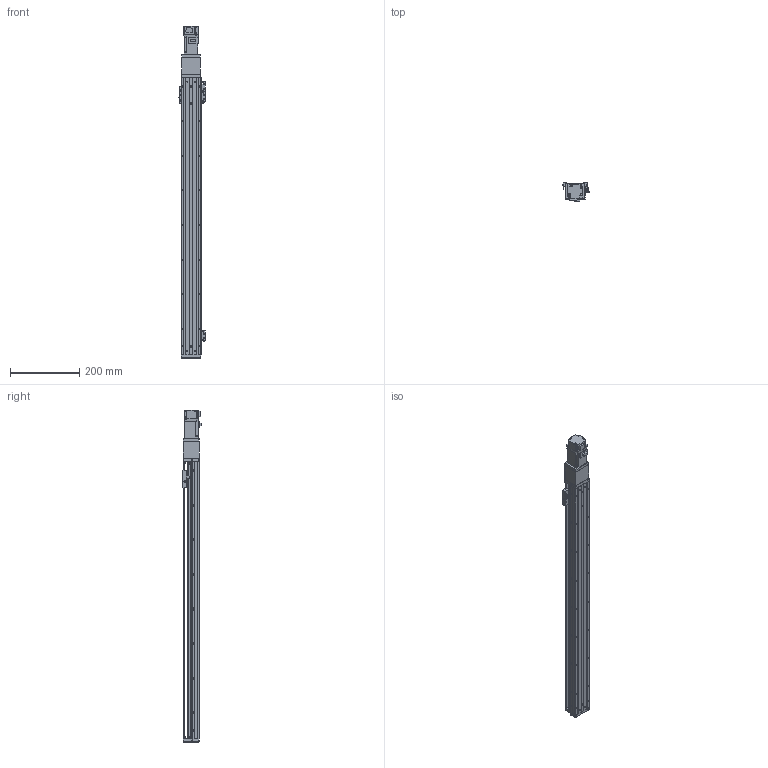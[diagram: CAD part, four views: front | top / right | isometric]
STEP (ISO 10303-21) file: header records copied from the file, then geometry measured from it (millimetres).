
FILE_DESCRIPTION (( 'STEP AP203' ), '1' );
FILE_NAME ('KTHA50-700-BC-M10-C4L.step', '2022-03-19T07:04:21', ( '微软用户' ), ( '微软中国' ), 'SwSTEP 2.0', 'SolidWorks 2020', '' );
FILE_SCHEMA (( 'CONFIG_CONTROL_DESIGN' ));
Length unit declared in the file: millimetre
Products named in the file (18): EE_SX911P_R; GBT 70.3-M3℅6; GBT77-2000 M3×3; CTHA50-027; KTHA50-001_800; GBT 70.1-M3℅6; CTHA50-006-2_CTHA60-006-2; KTHA50-002; CTHA60-017; CTHA50-013; KTHA50-004; GBT 70.1-M4×12; HG-KR13（三菱）; KTHA50-005; CTHA60-016; KTHA50-700-BC-M10-C4L; GB¨uT 70.2-M3¡Á6_M3¡Á6; CTHA60-021
Assembly tree (52 placements, depth 2):
  KTHA50-700-BC-M10-C4L
    KTHA50-001_800
    KTHA50-002
    KTHA50-004
    KTHA50-005
    GB¨uT 70.2-M3¡Á6_M3¡Á6  x6
    EE_SX911P_R  x3
    GBT77-2000 M3×3  x6
    GBT 70.1-M3℅6  x6
    CTHA60-017  x3
    GBT 70.1-M4×12  x10
    CTHA60-016  x2
    CTHA60-021  x2
    GBT 70.3-M3℅6  x6
    CTHA50-027
    CTHA50-006-2_CTHA60-006-2
    CTHA50-013
    HG-KR13（三菱）
Bounding box: 75.22 x 53.3 x 958.6 mm (x, y, z)
Volume: 1583279 mm3; surface area: 402581.7 mm2
Topology: 55 solids, 55 shells, 2226 faces, 5290 edges, 3244 vertices
Faces by surface type: plane 1268, cylinder 530, cone 324, torus 88, sphere 16
Entity records: 36832 total; most frequent: CARTESIAN_POINT 6026, DIRECTION 5950, ORIENTED_EDGE 5652, EDGE_CURVE 2826, VECTOR 1988, LINE 1988, AXIS2_PLACEMENT_3D 1981, VERTEX_POINT 1777
